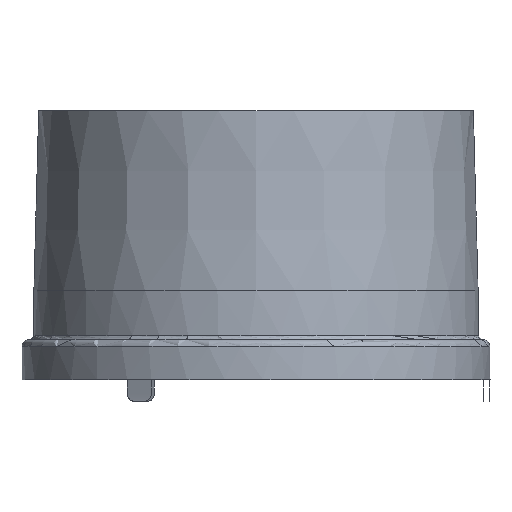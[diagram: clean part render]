
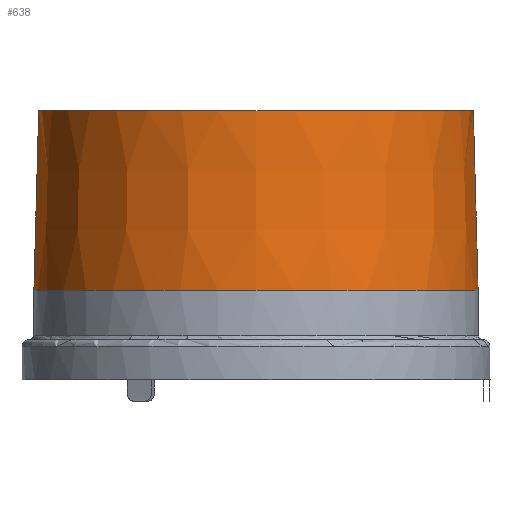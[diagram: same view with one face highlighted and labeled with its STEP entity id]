
A CAD part, left-side view. The second image highlights one B-rep face of the part: STEP entity #638.
In plain terms, the highlighted conical face has half-angle 1.53 degrees and reference radius 27.223 mm.
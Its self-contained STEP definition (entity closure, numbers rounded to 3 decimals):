
#25=CONICAL_SURFACE('',#678,27.223,0.027);
#31=LINE('',#1068,#66);
#32=LINE('',#1070,#67);
#66=VECTOR('',#749,304.8);
#67=VECTOR('',#750,304.8);
#119=FACE_OUTER_BOUND('',#151,.T.);
#151=EDGE_LOOP('',(#480,#481,#482,#483));
#235=CIRCLE('',#675,27.762);
#237=CIRCLE('',#679,27.163);
#267=VERTEX_POINT('',#1059);
#268=VERTEX_POINT('',#1061);
#269=VERTEX_POINT('',#1067);
#270=VERTEX_POINT('',#1069);
#349=EDGE_CURVE('',#267,#268,#235,.T.);
#351=EDGE_CURVE('',#267,#269,#31,.T.);
#352=EDGE_CURVE('',#270,#268,#32,.T.);
#353=EDGE_CURVE('',#269,#270,#237,.T.);
#480=ORIENTED_EDGE('',*,*,#351,.F.);
#481=ORIENTED_EDGE('',*,*,#349,.T.);
#482=ORIENTED_EDGE('',*,*,#352,.F.);
#483=ORIENTED_EDGE('',*,*,#353,.F.);
#638=ADVANCED_FACE('',(#119),#25,.T.);
#675=AXIS2_PLACEMENT_3D('',#1063,#741,#742);
#678=AXIS2_PLACEMENT_3D('',#1066,#747,#748);
#679=AXIS2_PLACEMENT_3D('',#1071,#751,#752);
#741=DIRECTION('center_axis',(0.,0.,1.));
#742=DIRECTION('ref_axis',(0.,1.,0.));
#747=DIRECTION('center_axis',(0.,0.,
-1.));
#748=DIRECTION('ref_axis',(1.,0.,0.));
#749=DIRECTION('',(0.,0.027,1.));
#750=DIRECTION('',(0.,0.027,-1.));
#751=DIRECTION('center_axis',(0.,0.,1.));
#752=DIRECTION('ref_axis',(-0.588,0.809,0.));
#1059=CARTESIAN_POINT('',(0.,-27.762,10.87));
#1061=CARTESIAN_POINT('',(0.,27.762,10.87));
#1063=CARTESIAN_POINT('Origin',(0.,0.,10.87));
#1066=CARTESIAN_POINT('Origin',(0.,0.,
31.044));
#1067=CARTESIAN_POINT('',(0.,-27.163,33.286));
#1068=CARTESIAN_POINT('',(0.,-27.762,10.87));
#1069=CARTESIAN_POINT('',(0.,27.163,33.286));
#1070=CARTESIAN_POINT('',(0.,27.163,33.286));
#1071=CARTESIAN_POINT('Origin',(0.,0.,
33.286));
